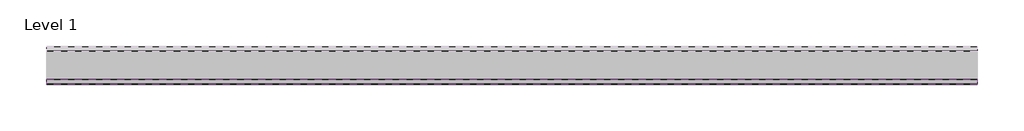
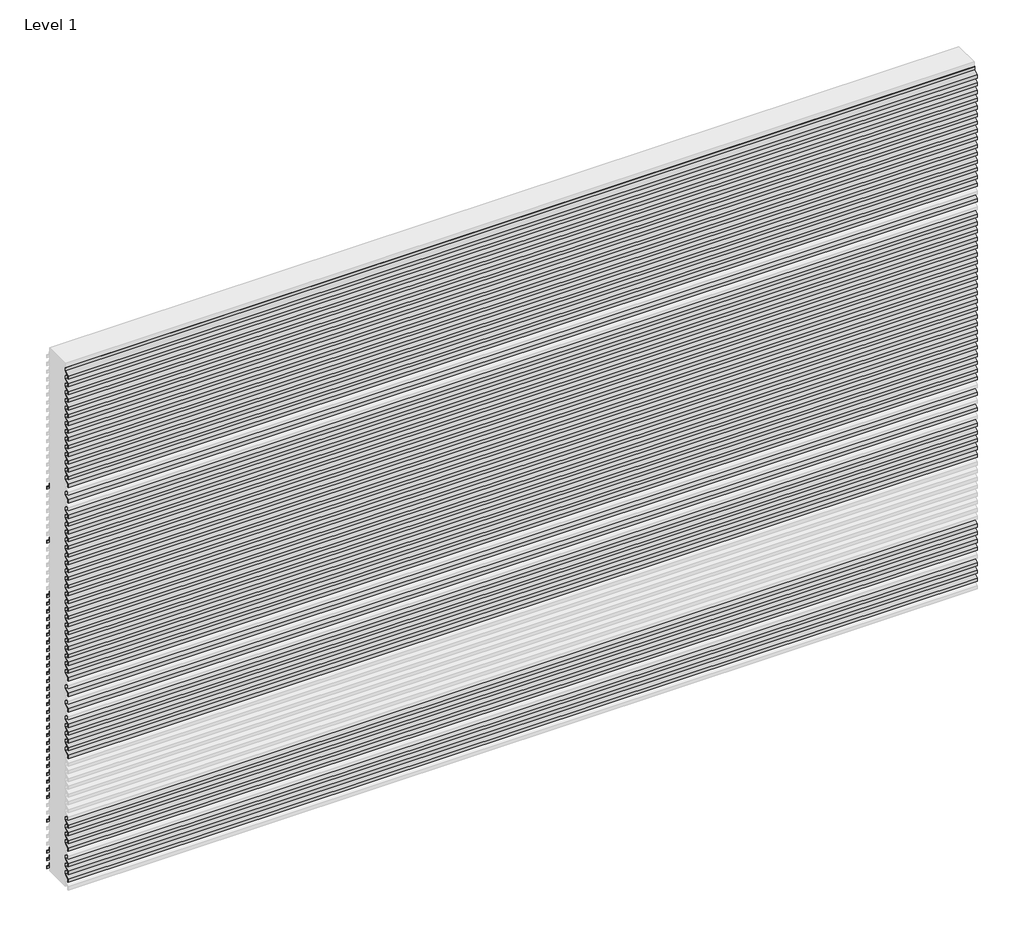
# One storey, part 63 of 69: 85 proxies.
"""IFC4 building model written with IfcOpenShell, lengths in millimetres."""

from ifc_helpers import new_model, si_unit, frame, origin, place, context, project, spatial, polyline, outline, extrude, element, save

model = new_model("IFC4")

# Units and contexts
model_context = context("Model", 3, world=origin())
ifc_project = project(units=[si_unit("LENGTHUNIT", "METRE", prefix="MILLI")], contexts=[model_context])

# Site, building, storey
site = spatial("IfcSite", under=ifc_project)
building = spatial("IfcBuilding", under=site)
storey = spatial("IfcBuildingStorey", under=building, Name="Level 1", Elevation=0.0)

# Proxies
placement = place(None, origin())
element("IfcBuildingElementProxy", 1, Name="Wall Sweeps", at=placement, inside=storey, context=model_context, shape_type="SweptSolid", body=[
    extrude(outline(polyline([(36045.8955424, 309.3), (36045.8955424, 295.8), (36044.6455424, 296.5216933), (36044.6455424, 308.5782281), (36025.4955424, 319.6345698), (36025.4955424, 333.3), (36026.7455424, 333.3), (36026.7455424, 320.3562577), (36045.8955424, 309.3)])), frame((224550.5749426, 0.0, 0.0), z_axis=(1.0, 0.0, 0.0), x_axis=(0.0, 1.0, 0.0)), (0.0, 0.0, 1.0), 3700.0),
])
element("IfcBuildingElementProxy", 2, Name="Wall Sweeps", at=placement, inside=storey, context=model_context, shape_type="SweptSolid", body=[
    extrude(outline(polyline([(36045.8955424, 1075.9), (36045.8955424, 1062.4), (36044.6455424, 1063.1216933), (36044.6455424, 1075.1782281), (36025.4955424, 1086.2345698), (36025.4955424, 1099.9), (36026.7455424, 1099.9), (36026.7455424, 1086.9562577), (36045.8955424, 1075.9)])), frame((224550.5749426, 0.0, 0.0), z_axis=(1.0, 0.0, 0.0), x_axis=(0.0, 1.0, 0.0)), (0.0, 0.0, 1.0), 3700.0),
])
element("IfcBuildingElementProxy", 3, Name="Wall Sweeps", at=placement, inside=storey, context=model_context, shape_type="SweptSolid", body=[
    extrude(outline(polyline([(36045.8955424, 1409.2), (36045.8955424, 1395.7), (36044.6455424, 1396.4216933), (36044.6455424, 1408.4782281), (36025.4955424, 1419.5345698), (36025.4955424, 1433.2), (36026.7455424, 1433.2), (36026.7455424, 1420.2562577), (36045.8955424, 1409.2)])), frame((224550.5749426, 0.0, 0.0), z_axis=(1.0, 0.0, 0.0), x_axis=(0.0, 1.0, 0.0)), (0.0, 0.0, 1.0), 3700.0),
])
element("IfcBuildingElementProxy", 4, Name="Wall Sweeps", at=placement, inside=storey, context=model_context, shape_type="SweptSolid", body=[
    extrude(outline(polyline([(36045.8955424, 1641.0), (36045.8955424, 1627.5), (36044.6455424, 1628.2216933), (36044.6455424, 1640.2782281), (36025.4955424, 1651.3345698), (36025.4955424, 1665.0), (36026.7455424, 1665.0), (36026.7455424, 1652.0562577), (36045.8955424, 1641.0)])), frame((224550.5749426, 0.0, 0.0), z_axis=(1.0, 0.0, 0.0), x_axis=(0.0, 1.0, 0.0)), (0.0, 0.0, 1.0), 3700.0),
])
element("IfcBuildingElementProxy", 5, Name="Wall Sweeps", at=placement, inside=storey, context=model_context, shape_type="SweptSolid", body=[
    extrude(outline(polyline([(36045.8955424, 209.3), (36045.8955424, 195.8), (36044.6455424, 196.5216933), (36044.6455424, 208.5782281), (36025.4955424, 219.6345698), (36025.4955424, 233.3), (36026.7455424, 233.3), (36026.7455424, 220.3562577), (36045.8955424, 209.3)])), frame((224550.5749426, 0.0, 0.0), z_axis=(1.0, 0.0, 0.0), x_axis=(0.0, 1.0, 0.0)), (0.0, 0.0, 1.0), 3700.0),
])
element("IfcBuildingElementProxy", 6, Name="Wall Sweeps", at=placement, inside=storey, context=model_context, shape_type="SweptSolid", body=[
    extrude(outline(polyline([(36045.8955424, 9.3), (36045.8955424, -4.2), (36044.6455424, -3.4783067), (36044.6455424, 8.5782281), (36025.4955424, 19.6345698), (36025.4955424, 33.3), (36026.7455424, 33.3), (36026.7455424, 20.3562577), (36045.8955424, 9.3)])), frame((224550.5749426, 0.0, 0.0), z_axis=(1.0, 0.0, 0.0), x_axis=(0.0, 1.0, 0.0)), (0.0, 0.0, 1.0), 3700.0),
])
element("IfcBuildingElementProxy", 7, Name="Wall Sweeps", at=placement, inside=storey, context=model_context, shape_type="SweptSolid", body=[
    extrude(outline(polyline([(36045.8955424, 342.6), (36045.8955424, 329.1), (36044.6455424, 329.8216933), (36044.6455424, 341.8782281), (36025.4955424, 352.9345698), (36025.4955424, 366.6), (36026.7455424, 366.6), (36026.7455424, 353.6562577), (36045.8955424, 342.6)])), frame((224550.5749426, 0.0, 0.0), z_axis=(1.0, 0.0, 0.0), x_axis=(0.0, 1.0, 0.0)), (0.0, 0.0, 1.0), 3700.0),
])
element("IfcBuildingElementProxy", 8, Name="Wall Sweeps", at=placement, inside=storey, context=model_context, shape_type="SweptSolid", body=[
    extrude(outline(polyline([(36045.8955424, 376.0), (36045.8955424, 362.5), (36044.6455424, 363.2216933), (36044.6455424, 375.2782281), (36025.4955424, 386.3345698), (36025.4955424, 400.0), (36026.7455424, 400.0), (36026.7455424, 387.0562577), (36045.8955424, 376.0)])), frame((224550.5749426, 0.0, 0.0), z_axis=(1.0, 0.0, 0.0), x_axis=(0.0, 1.0, 0.0)), (0.0, 0.0, 1.0), 3700.0),
])
element("IfcBuildingElementProxy", 9, Name="Wall Sweeps", at=placement, inside=storey, context=model_context, shape_type="SweptSolid", body=[
    extrude(outline(polyline([(36045.8955424, 409.3), (36045.8955424, 395.8), (36044.6455424, 396.5216933), (36044.6455424, 408.5782281), (36025.4955424, 419.6345698), (36025.4955424, 433.3), (36026.7455424, 433.3), (36026.7455424, 420.3562577), (36045.8955424, 409.3)])), frame((224550.5749426, 0.0, 0.0), z_axis=(1.0, 0.0, 0.0), x_axis=(0.0, 1.0, 0.0)), (0.0, 0.0, 1.0), 3700.0),
])
element("IfcBuildingElementProxy", 10, Name="Wall Sweeps", at=placement, inside=storey, context=model_context, shape_type="SweptSolid", body=[
    extrude(outline(polyline([(36045.8955424, 442.6), (36045.8955424, 429.1), (36044.6455424, 429.8216933), (36044.6455424, 441.8782281), (36025.4955424, 452.9345698), (36025.4955424, 466.6), (36026.7455424, 466.6), (36026.7455424, 453.6562577), (36045.8955424, 442.6)])), frame((224550.5749426, 0.0, 0.0), z_axis=(1.0, 0.0, 0.0), x_axis=(0.0, 1.0, 0.0)), (0.0, 0.0, 1.0), 3700.0),
])
element("IfcBuildingElementProxy", 11, Name="Wall Sweeps", at=placement, inside=storey, context=model_context, shape_type="SweptSolid", body=[
    extrude(outline(polyline([(36045.8955424, 476.0), (36045.8955424, 462.5), (36044.6455424, 463.2216933), (36044.6455424, 475.2782281), (36025.4955424, 486.3345698), (36025.4955424, 500.0), (36026.7455424, 500.0), (36026.7455424, 487.0562577), (36045.8955424, 476.0)])), frame((224550.5749426, 0.0, 0.0), z_axis=(1.0, 0.0, 0.0), x_axis=(0.0, 1.0, 0.0)), (0.0, 0.0, 1.0), 3700.0),
])
element("IfcBuildingElementProxy", 12, Name="Wall Sweeps", at=placement, inside=storey, context=model_context, shape_type="SweptSolid", body=[
    extrude(outline(polyline([(36045.8955424, 509.3), (36045.8955424, 495.8), (36044.6455424, 496.5216933), (36044.6455424, 508.5782281), (36025.4955424, 519.6345698), (36025.4955424, 533.3), (36026.7455424, 533.3), (36026.7455424, 520.3562577), (36045.8955424, 509.3)])), frame((224550.5749426, 0.0, 0.0), z_axis=(1.0, 0.0, 0.0), x_axis=(0.0, 1.0, 0.0)), (0.0, 0.0, 1.0), 3700.0),
])
element("IfcBuildingElementProxy", 13, Name="Wall Sweeps", at=placement, inside=storey, context=model_context, shape_type="SweptSolid", body=[
    extrude(outline(polyline([(36045.8955424, 542.6), (36045.8955424, 529.1), (36044.6455424, 529.8216933), (36044.6455424, 541.8782281), (36025.4955424, 552.9345698), (36025.4955424, 566.6), (36026.7455424, 566.6), (36026.7455424, 553.6562577), (36045.8955424, 542.6)])), frame((224550.5749426, 0.0, 0.0), z_axis=(1.0, 0.0, 0.0), x_axis=(0.0, 1.0, 0.0)), (0.0, 0.0, 1.0), 3700.0),
])
element("IfcBuildingElementProxy", 14, Name="Wall Sweeps", at=placement, inside=storey, context=model_context, shape_type="SweptSolid", body=[
    extrude(outline(polyline([(35894.0955424, 575.4), (35913.2455424, 586.4562577), (35913.2455424, 599.4), (35914.4955424, 599.4), (35914.4955424, 585.7345698), (35895.3455424, 574.6782281), (35895.3455424, 562.6216933), (35894.0955424, 561.9), (35894.0955424, 575.4)])), frame((224550.5749426, 0.0, 0.0), z_axis=(1.0, 0.0, 0.0), x_axis=(0.0, 1.0, 0.0)), (0.0, 0.0, 1.0), 3700.0),
])
element("IfcBuildingElementProxy", 15, Name="Wall Sweeps", at=placement, inside=storey, context=model_context, shape_type="SweptSolid", body=[
    extrude(outline(polyline([(36045.8955424, 575.9), (36045.8955424, 562.4), (36044.6455424, 563.1216933), (36044.6455424, 575.1782281), (36025.4955424, 586.2345698), (36025.4955424, 599.9), (36026.7455424, 599.9), (36026.7455424, 586.9562577), (36045.8955424, 575.9)])), frame((224550.5749426, 0.0, 0.0), z_axis=(1.0, 0.0, 0.0), x_axis=(0.0, 1.0, 0.0)), (0.0, 0.0, 1.0), 3700.0),
])
element("IfcBuildingElementProxy", 16, Name="Wall Sweeps", at=placement, inside=storey, context=model_context, shape_type="SweptSolid", body=[
    extrude(outline(polyline([(35894.0955424, 608.7), (35913.2455424, 619.7562577), (35913.2455424, 632.7), (35914.4955424, 632.7), (35914.4955424, 619.0345698), (35895.3455424, 607.9782281), (35895.3455424, 595.9216933), (35894.0955424, 595.2), (35894.0955424, 608.7)])), frame((224550.5749426, 0.0, 0.0), z_axis=(1.0, 0.0, 0.0), x_axis=(0.0, 1.0, 0.0)), (0.0, 0.0, 1.0), 3700.0),
])
element("IfcBuildingElementProxy", 17, Name="Wall Sweeps", at=placement, inside=storey, context=model_context, shape_type="SweptSolid", body=[
    extrude(outline(polyline([(36045.8955424, 609.3), (36045.8955424, 595.8), (36044.6455424, 596.5216933), (36044.6455424, 608.5782281), (36025.4955424, 619.6345698), (36025.4955424, 633.3), (36026.7455424, 633.3), (36026.7455424, 620.3562577), (36045.8955424, 609.3)])), frame((224550.5749426, 0.0, 0.0), z_axis=(1.0, 0.0, 0.0), x_axis=(0.0, 1.0, 0.0)), (0.0, 0.0, 1.0), 3700.0),
])
element("IfcBuildingElementProxy", 18, Name="Wall Sweeps", at=placement, inside=storey, context=model_context, shape_type="SweptSolid", body=[
    extrude(outline(polyline([(35894.0955424, 642.0), (35913.2455424, 653.0562577), (35913.2455424, 666.0), (35914.4955424, 666.0), (35914.4955424, 652.3345698), (35895.3455424, 641.2782281), (35895.3455424, 629.2216933), (35894.0955424, 628.5), (35894.0955424, 642.0)])), frame((224550.5749426, 0.0, 0.0), z_axis=(1.0, 0.0, 0.0), x_axis=(0.0, 1.0, 0.0)), (0.0, 0.0, 1.0), 3700.0),
])
element("IfcBuildingElementProxy", 19, Name="Wall Sweeps", at=placement, inside=storey, context=model_context, shape_type="SweptSolid", body=[
    extrude(outline(polyline([(35894.0955424, 42.6), (35913.2455424, 53.6562577), (35913.2455424, 66.6), (35914.4955424, 66.6), (35914.4955424, 52.9345698), (35895.3455424, 41.8782281), (35895.3455424, 29.8216933), (35894.0955424, 29.1), (35894.0955424, 42.6)])), frame((224550.5749426, 0.0, 0.0), z_axis=(1.0, 0.0, 0.0), x_axis=(0.0, 1.0, 0.0)), (0.0, 0.0, 1.0), 3700.0),
])
element("IfcBuildingElementProxy", 20, Name="Wall Sweeps", at=placement, inside=storey, context=model_context, shape_type="SweptSolid", body=[
    extrude(outline(polyline([(36045.8955424, 642.6), (36045.8955424, 629.1), (36044.6455424, 629.8216933), (36044.6455424, 641.8782281), (36025.4955424, 652.9345698), (36025.4955424, 666.6), (36026.7455424, 666.6), (36026.7455424, 653.6562577), (36045.8955424, 642.6)])), frame((224550.5749426, 0.0, 0.0), z_axis=(1.0, 0.0, 0.0), x_axis=(0.0, 1.0, 0.0)), (0.0, 0.0, 1.0), 3700.0),
])
element("IfcBuildingElementProxy", 21, Name="Wall Sweeps", at=placement, inside=storey, context=model_context, shape_type="SweptSolid", body=[
    extrude(outline(polyline([(36045.8955424, 42.7), (36045.8955424, 29.2), (36044.6455424, 29.9216933), (36044.6455424, 41.9782281), (36025.4955424, 53.0345698), (36025.4955424, 66.7), (36026.7455424, 66.7), (36026.7455424, 53.7562577), (36045.8955424, 42.7)])), frame((224550.5749426, 0.0, 0.0), z_axis=(1.0, 0.0, 0.0), x_axis=(0.0, 1.0, 0.0)), (0.0, 0.0, 1.0), 3700.0),
])
element("IfcBuildingElementProxy", 22, Name="Wall Sweeps", at=placement, inside=storey, context=model_context, shape_type="SweptSolid", body=[
    extrude(outline(polyline([(35894.0955424, 675.3), (35913.2455424, 686.3562577), (35913.2455424, 699.3), (35914.4955424, 699.3), (35914.4955424, 685.6345698), (35895.3455424, 674.5782281), (35895.3455424, 662.5216933), (35894.0955424, 661.8), (35894.0955424, 675.3)])), frame((224550.5749426, 0.0, 0.0), z_axis=(1.0, 0.0, 0.0), x_axis=(0.0, 1.0, 0.0)), (0.0, 0.0, 1.0), 3700.0),
])
element("IfcBuildingElementProxy", 23, Name="Wall Sweeps", at=placement, inside=storey, context=model_context, shape_type="SweptSolid", body=[
    extrude(outline(polyline([(36045.8955424, 675.9), (36045.8955424, 662.4), (36044.6455424, 663.1216933), (36044.6455424, 675.1782281), (36025.4955424, 686.2345698), (36025.4955424, 699.9), (36026.7455424, 699.9), (36026.7455424, 686.9562577), (36045.8955424, 675.9)])), frame((224550.5749426, 0.0, 0.0), z_axis=(1.0, 0.0, 0.0), x_axis=(0.0, 1.0, 0.0)), (0.0, 0.0, 1.0), 3700.0),
])
element("IfcBuildingElementProxy", 24, Name="Wall Sweeps", at=placement, inside=storey, context=model_context, shape_type="SweptSolid", body=[
    extrude(outline(polyline([(35894.0955424, 708.6), (35913.2455424, 719.6562577), (35913.2455424, 732.6), (35914.4955424, 732.6), (35914.4955424, 718.9345698), (35895.3455424, 707.8782281), (35895.3455424, 695.8216933), (35894.0955424, 695.1), (35894.0955424, 708.6)])), frame((224550.5749426, 0.0, 0.0), z_axis=(1.0, 0.0, 0.0), x_axis=(0.0, 1.0, 0.0)), (0.0, 0.0, 1.0), 3700.0),
])
element("IfcBuildingElementProxy", 25, Name="Wall Sweeps", at=placement, inside=storey, context=model_context, shape_type="SweptSolid", body=[
    extrude(outline(polyline([(36045.8955424, 709.3), (36045.8955424, 695.8), (36044.6455424, 696.5216933), (36044.6455424, 708.5782281), (36025.4955424, 719.6345698), (36025.4955424, 733.3), (36026.7455424, 733.3), (36026.7455424, 720.3562577), (36045.8955424, 709.3)])), frame((224550.5749426, 0.0, 0.0), z_axis=(1.0, 0.0, 0.0), x_axis=(0.0, 1.0, 0.0)), (0.0, 0.0, 1.0), 3700.0),
])
element("IfcBuildingElementProxy", 26, Name="Wall Sweeps", at=placement, inside=storey, context=model_context, shape_type="SweptSolid", body=[
    extrude(outline(polyline([(36045.8955424, 742.6), (36045.8955424, 729.1), (36044.6455424, 729.8216933), (36044.6455424, 741.8782281), (36025.4955424, 752.9345698), (36025.4955424, 766.6), (36026.7455424, 766.6), (36026.7455424, 753.6562577), (36045.8955424, 742.6)])), frame((224550.5749426, 0.0, 0.0), z_axis=(1.0, 0.0, 0.0), x_axis=(0.0, 1.0, 0.0)), (0.0, 0.0, 1.0), 3700.0),
])
element("IfcBuildingElementProxy", 27, Name="Wall Sweeps", at=placement, inside=storey, context=model_context, shape_type="SweptSolid", body=[
    extrude(outline(polyline([(35894.0955424, 775.2), (35913.2455424, 786.2562577), (35913.2455424, 799.2), (35914.4955424, 799.2), (35914.4955424, 785.5345698), (35895.3455424, 774.4782281), (35895.3455424, 762.4216933), (35894.0955424, 761.7), (35894.0955424, 775.2)])), frame((224550.5749426, 0.0, 0.0), z_axis=(1.0, 0.0, 0.0), x_axis=(0.0, 1.0, 0.0)), (0.0, 0.0, 1.0), 3700.0),
])
element("IfcBuildingElementProxy", 28, Name="Wall Sweeps", at=placement, inside=storey, context=model_context, shape_type="SweptSolid", body=[
    extrude(outline(polyline([(36045.8955424, 775.9), (36045.8955424, 762.4), (36044.6455424, 763.1216933), (36044.6455424, 775.1782281), (36025.4955424, 786.2345698), (36025.4955424, 799.9), (36026.7455424, 799.9), (36026.7455424, 786.9562577), (36045.8955424, 775.9)])), frame((224550.5749426, 0.0, 0.0), z_axis=(1.0, 0.0, 0.0), x_axis=(0.0, 1.0, 0.0)), (0.0, 0.0, 1.0), 3700.0),
])
element("IfcBuildingElementProxy", 29, Name="Wall Sweeps", at=placement, inside=storey, context=model_context, shape_type="SweptSolid", body=[
    extrude(outline(polyline([(36045.8955424, 809.3), (36045.8955424, 795.8), (36044.6455424, 796.5216933), (36044.6455424, 808.5782281), (36025.4955424, 819.6345698), (36025.4955424, 833.3), (36026.7455424, 833.3), (36026.7455424, 820.3562577), (36045.8955424, 809.3)])), frame((224550.5749426, 0.0, 0.0), z_axis=(1.0, 0.0, 0.0), x_axis=(0.0, 1.0, 0.0)), (0.0, 0.0, 1.0), 3700.0),
])
element("IfcBuildingElementProxy", 30, Name="Wall Sweeps", at=placement, inside=storey, context=model_context, shape_type="SweptSolid", body=[
    extrude(outline(polyline([(35894.0955424, 841.8), (35913.2455424, 852.8562577), (35913.2455424, 865.8), (35914.4955424, 865.8), (35914.4955424, 852.1345698), (35895.3455424, 841.0782281), (35895.3455424, 829.0216933), (35894.0955424, 828.3), (35894.0955424, 841.8)])), frame((224550.5749426, 0.0, 0.0), z_axis=(1.0, 0.0, 0.0), x_axis=(0.0, 1.0, 0.0)), (0.0, 0.0, 1.0), 3700.0),
])
element("IfcBuildingElementProxy", 31, Name="Wall Sweeps", at=placement, inside=storey, context=model_context, shape_type="SweptSolid", body=[
    extrude(outline(polyline([(36045.8955424, 842.6), (36045.8955424, 829.1), (36044.6455424, 829.8216933), (36044.6455424, 841.8782281), (36025.4955424, 852.9345698), (36025.4955424, 866.6), (36026.7455424, 866.6), (36026.7455424, 853.6562577), (36045.8955424, 842.6)])), frame((224550.5749426, 0.0, 0.0), z_axis=(1.0, 0.0, 0.0), x_axis=(0.0, 1.0, 0.0)), (0.0, 0.0, 1.0), 3700.0),
])
element("IfcBuildingElementProxy", 32, Name="Wall Sweeps", at=placement, inside=storey, context=model_context, shape_type="SweptSolid", body=[
    extrude(outline(polyline([(36045.8955424, 875.9), (36045.8955424, 862.4), (36044.6455424, 863.1216933), (36044.6455424, 875.1782281), (36025.4955424, 886.2345698), (36025.4955424, 899.9), (36026.7455424, 899.9), (36026.7455424, 886.9562577), (36045.8955424, 875.9)])), frame((224550.5749426, 0.0, 0.0), z_axis=(1.0, 0.0, 0.0), x_axis=(0.0, 1.0, 0.0)), (0.0, 0.0, 1.0), 3700.0),
])
element("IfcBuildingElementProxy", 33, Name="Wall Sweeps", at=placement, inside=storey, context=model_context, shape_type="SweptSolid", body=[
    extrude(outline(polyline([(35894.0955424, 908.4), (35913.2455424, 919.4562577), (35913.2455424, 932.4), (35914.4955424, 932.4), (35914.4955424, 918.7345698), (35895.3455424, 907.6782281), (35895.3455424, 895.6216933), (35894.0955424, 894.9), (35894.0955424, 908.4)])), frame((224550.5749426, 0.0, 0.0), z_axis=(1.0, 0.0, 0.0), x_axis=(0.0, 1.0, 0.0)), (0.0, 0.0, 1.0), 3700.0),
])
element("IfcBuildingElementProxy", 34, Name="Wall Sweeps", at=placement, inside=storey, context=model_context, shape_type="SweptSolid", body=[
    extrude(outline(polyline([(36045.8955424, 909.2), (36045.8955424, 895.7), (36044.6455424, 896.4216933), (36044.6455424, 908.4782281), (36025.4955424, 919.5345698), (36025.4955424, 933.2), (36026.7455424, 933.2), (36026.7455424, 920.2562577), (36045.8955424, 909.2)])), frame((224550.5749426, 0.0, 0.0), z_axis=(1.0, 0.0, 0.0), x_axis=(0.0, 1.0, 0.0)), (0.0, 0.0, 1.0), 3700.0),
])
element("IfcBuildingElementProxy", 35, Name="Wall Sweeps", at=placement, inside=storey, context=model_context, shape_type="SweptSolid", body=[
    extrude(outline(polyline([(35894.0955424, 941.7), (35913.2455424, 952.7562577), (35913.2455424, 965.7), (35914.4955424, 965.7), (35914.4955424, 952.0345698), (35895.3455424, 940.9782281), (35895.3455424, 928.9216933), (35894.0955424, 928.2), (35894.0955424, 941.7)])), frame((224550.5749426, 0.0, 0.0), z_axis=(1.0, 0.0, 0.0), x_axis=(0.0, 1.0, 0.0)), (0.0, 0.0, 1.0), 3700.0),
])
element("IfcBuildingElementProxy", 36, Name="Wall Sweeps", at=placement, inside=storey, context=model_context, shape_type="SweptSolid", body=[
    extrude(outline(polyline([(36045.8955424, 942.6), (36045.8955424, 929.1), (36044.6455424, 929.8216933), (36044.6455424, 941.8782281), (36025.4955424, 952.9345698), (36025.4955424, 966.6), (36026.7455424, 966.6), (36026.7455424, 953.6562577), (36045.8955424, 942.6)])), frame((224550.5749426, 0.0, 0.0), z_axis=(1.0, 0.0, 0.0), x_axis=(0.0, 1.0, 0.0)), (0.0, 0.0, 1.0), 3700.0),
])
element("IfcBuildingElementProxy", 37, Name="Wall Sweeps", at=placement, inside=storey, context=model_context, shape_type="SweptSolid", body=[
    extrude(outline(polyline([(35894.0955424, 975.0), (35913.2455424, 986.0562577), (35913.2455424, 999.0), (35914.4955424, 999.0), (35914.4955424, 985.3345698), (35895.3455424, 974.2782281), (35895.3455424, 962.2216933), (35894.0955424, 961.5), (35894.0955424, 975.0)])), frame((224550.5749426, 0.0, 0.0), z_axis=(1.0, 0.0, 0.0), x_axis=(0.0, 1.0, 0.0)), (0.0, 0.0, 1.0), 3700.0),
])
element("IfcBuildingElementProxy", 38, Name="Wall Sweeps", at=placement, inside=storey, context=model_context, shape_type="SweptSolid", body=[
    extrude(outline(polyline([(36045.8955424, 975.9), (36045.8955424, 962.4), (36044.6455424, 963.1216933), (36044.6455424, 975.1782281), (36025.4955424, 986.2345698), (36025.4955424, 999.9), (36026.7455424, 999.9), (36026.7455424, 986.9562577), (36045.8955424, 975.9)])), frame((224550.5749426, 0.0, 0.0), z_axis=(1.0, 0.0, 0.0), x_axis=(0.0, 1.0, 0.0)), (0.0, 0.0, 1.0), 3700.0),
])
element("IfcBuildingElementProxy", 39, Name="Wall Sweeps", at=placement, inside=storey, context=model_context, shape_type="SweptSolid", body=[
    extrude(outline(polyline([(35894.0955424, 76.0), (35913.2455424, 87.0562577), (35913.2455424, 100.0), (35914.4955424, 100.0), (35914.4955424, 86.3345698), (35895.3455424, 75.2782281), (35895.3455424, 63.2216933), (35894.0955424, 62.5), (35894.0955424, 76.0)])), frame((224550.5749426, 0.0, 0.0), z_axis=(1.0, 0.0, 0.0), x_axis=(0.0, 1.0, 0.0)), (0.0, 0.0, 1.0), 3700.0),
])
element("IfcBuildingElementProxy", 40, Name="Wall Sweeps", at=placement, inside=storey, context=model_context, shape_type="SweptSolid", body=[
    extrude(outline(polyline([(36045.8955424, 76.0), (36045.8955424, 62.5), (36044.6455424, 63.2216933), (36044.6455424, 75.2782281), (36025.4955424, 86.3345698), (36025.4955424, 100.0), (36026.7455424, 100.0), (36026.7455424, 87.0562577), (36045.8955424, 76.0)])), frame((224550.5749426, 0.0, 0.0), z_axis=(1.0, 0.0, 0.0), x_axis=(0.0, 1.0, 0.0)), (0.0, 0.0, 1.0), 3700.0),
])
element("IfcBuildingElementProxy", 41, Name="Wall Sweeps", at=placement, inside=storey, context=model_context, shape_type="SweptSolid", body=[
    extrude(outline(polyline([(35894.0955424, 1008.3), (35913.2455424, 1019.3562577), (35913.2455424, 1032.3), (35914.4955424, 1032.3), (35914.4955424, 1018.6345698), (35895.3455424, 1007.5782281), (35895.3455424, 995.5216933), (35894.0955424, 994.8), (35894.0955424, 1008.3)])), frame((224550.5749426, 0.0, 0.0), z_axis=(1.0, 0.0, 0.0), x_axis=(0.0, 1.0, 0.0)), (0.0, 0.0, 1.0), 3700.0),
])
element("IfcBuildingElementProxy", 42, Name="Wall Sweeps", at=placement, inside=storey, context=model_context, shape_type="SweptSolid", body=[
    extrude(outline(polyline([(36045.8955424, 1009.2), (36045.8955424, 995.7), (36044.6455424, 996.4216933), (36044.6455424, 1008.4782281), (36025.4955424, 1019.5345698), (36025.4955424, 1033.2), (36026.7455424, 1033.2), (36026.7455424, 1020.2562577), (36045.8955424, 1009.2)])), frame((224550.5749426, 0.0, 0.0), z_axis=(1.0, 0.0, 0.0), x_axis=(0.0, 1.0, 0.0)), (0.0, 0.0, 1.0), 3700.0),
])
element("IfcBuildingElementProxy", 43, Name="Wall Sweeps", at=placement, inside=storey, context=model_context, shape_type="SweptSolid", body=[
    extrude(outline(polyline([(35894.0955424, 1041.6), (35913.2455424, 1052.6562577), (35913.2455424, 1065.6), (35914.4955424, 1065.6), (35914.4955424, 1051.9345698), (35895.3455424, 1040.8782281), (35895.3455424, 1028.8216933), (35894.0955424, 1028.1), (35894.0955424, 1041.6)])), frame((224550.5749426, 0.0, 0.0), z_axis=(1.0, 0.0, 0.0), x_axis=(0.0, 1.0, 0.0)), (0.0, 0.0, 1.0), 3700.0),
])
element("IfcBuildingElementProxy", 44, Name="Wall Sweeps", at=placement, inside=storey, context=model_context, shape_type="SweptSolid", body=[
    extrude(outline(polyline([(36045.8955424, 1042.6), (36045.8955424, 1029.1), (36044.6455424, 1029.8216933), (36044.6455424, 1041.8782281), (36025.4955424, 1052.9345698), (36025.4955424, 1066.6), (36026.7455424, 1066.6), (36026.7455424, 1053.6562577), (36045.8955424, 1042.6)])), frame((224550.5749426, 0.0, 0.0), z_axis=(1.0, 0.0, 0.0), x_axis=(0.0, 1.0, 0.0)), (0.0, 0.0, 1.0), 3700.0),
])
element("IfcBuildingElementProxy", 45, Name="Wall Sweeps", at=placement, inside=storey, context=model_context, shape_type="SweptSolid", body=[
    extrude(outline(polyline([(35894.0955424, 1074.9), (35913.2455424, 1085.9562577), (35913.2455424, 1098.9), (35914.4955424, 1098.9), (35914.4955424, 1085.2345698), (35895.3455424, 1074.1782281), (35895.3455424, 1062.1216933), (35894.0955424, 1061.4), (35894.0955424, 1074.9)])), frame((224550.5749426, 0.0, 0.0), z_axis=(1.0, 0.0, 0.0), x_axis=(0.0, 1.0, 0.0)), (0.0, 0.0, 1.0), 3700.0),
])
element("IfcBuildingElementProxy", 46, Name="Wall Sweeps", at=placement, inside=storey, context=model_context, shape_type="SweptSolid", body=[
    extrude(outline(polyline([(35894.0955424, 1108.2), (35913.2455424, 1119.2562577), (35913.2455424, 1132.2), (35914.4955424, 1132.2), (35914.4955424, 1118.5345698), (35895.3455424, 1107.4782281), (35895.3455424, 1095.4216933), (35894.0955424, 1094.7), (35894.0955424, 1108.2)])), frame((224550.5749426, 0.0, 0.0), z_axis=(1.0, 0.0, 0.0), x_axis=(0.0, 1.0, 0.0)), (0.0, 0.0, 1.0), 3700.0),
])
element("IfcBuildingElementProxy", 47, Name="Wall Sweeps", at=placement, inside=storey, context=model_context, shape_type="SweptSolid", body=[
    extrude(outline(polyline([(36045.8955424, 1109.2), (36045.8955424, 1095.7), (36044.6455424, 1096.4216933), (36044.6455424, 1108.4782281), (36025.4955424, 1119.5345698), (36025.4955424, 1133.2), (36026.7455424, 1133.2), (36026.7455424, 1120.2562577), (36045.8955424, 1109.2)])), frame((224550.5749426, 0.0, 0.0), z_axis=(1.0, 0.0, 0.0), x_axis=(0.0, 1.0, 0.0)), (0.0, 0.0, 1.0), 3700.0),
])
element("IfcBuildingElementProxy", 48, Name="Wall Sweeps", at=placement, inside=storey, context=model_context, shape_type="SweptSolid", body=[
    extrude(outline(polyline([(35894.0955424, 1141.5), (35913.2455424, 1152.5562577), (35913.2455424, 1165.5), (35914.4955424, 1165.5), (35914.4955424, 1151.8345698), (35895.3455424, 1140.7782281), (35895.3455424, 1128.7216933), (35894.0955424, 1128.0), (35894.0955424, 1141.5)])), frame((224550.5749426, 0.0, 0.0), z_axis=(1.0, 0.0, 0.0), x_axis=(0.0, 1.0, 0.0)), (0.0, 0.0, 1.0), 3700.0),
])
element("IfcBuildingElementProxy", 49, Name="Wall Sweeps", at=placement, inside=storey, context=model_context, shape_type="SweptSolid", body=[
    extrude(outline(polyline([(36045.8955424, 1142.6), (36045.8955424, 1129.1), (36044.6455424, 1129.8216933), (36044.6455424, 1141.8782281), (36025.4955424, 1152.9345698), (36025.4955424, 1166.6), (36026.7455424, 1166.6), (36026.7455424, 1153.6562577), (36045.8955424, 1142.6)])), frame((224550.5749426, 0.0, 0.0), z_axis=(1.0, 0.0, 0.0), x_axis=(0.0, 1.0, 0.0)), (0.0, 0.0, 1.0), 3700.0),
])
element("IfcBuildingElementProxy", 50, Name="Wall Sweeps", at=placement, inside=storey, context=model_context, shape_type="SweptSolid", body=[
    extrude(outline(polyline([(35894.0955424, 1174.8), (35913.2455424, 1185.8562577), (35913.2455424, 1198.8), (35914.4955424, 1198.8), (35914.4955424, 1185.1345698), (35895.3455424, 1174.0782281), (35895.3455424, 1162.0216933), (35894.0955424, 1161.3), (35894.0955424, 1174.8)])), frame((224550.5749426, 0.0, 0.0), z_axis=(1.0, 0.0, 0.0), x_axis=(0.0, 1.0, 0.0)), (0.0, 0.0, 1.0), 3700.0),
])
element("IfcBuildingElementProxy", 51, Name="Wall Sweeps", at=placement, inside=storey, context=model_context, shape_type="SweptSolid", body=[
    extrude(outline(polyline([(36045.8955424, 1175.9), (36045.8955424, 1162.4), (36044.6455424, 1163.1216933), (36044.6455424, 1175.1782281), (36025.4955424, 1186.2345698), (36025.4955424, 1199.9), (36026.7455424, 1199.9), (36026.7455424, 1186.9562577), (36045.8955424, 1175.9)])), frame((224550.5749426, 0.0, 0.0), z_axis=(1.0, 0.0, 0.0), x_axis=(0.0, 1.0, 0.0)), (0.0, 0.0, 1.0), 3700.0),
])
element("IfcBuildingElementProxy", 52, Name="Wall Sweeps", at=placement, inside=storey, context=model_context, shape_type="SweptSolid", body=[
    extrude(outline(polyline([(35894.0955424, 1208.1), (35913.2455424, 1219.1562577), (35913.2455424, 1232.1), (35914.4955424, 1232.1), (35914.4955424, 1218.4345698), (35895.3455424, 1207.3782281), (35895.3455424, 1195.3216933), (35894.0955424, 1194.6), (35894.0955424, 1208.1)])), frame((224550.5749426, 0.0, 0.0), z_axis=(1.0, 0.0, 0.0), x_axis=(0.0, 1.0, 0.0)), (0.0, 0.0, 1.0), 3700.0),
])
element("IfcBuildingElementProxy", 53, Name="Wall Sweeps", at=placement, inside=storey, context=model_context, shape_type="SweptSolid", body=[
    extrude(outline(polyline([(35894.0955424, 1241.4), (35913.2455424, 1252.4562577), (35913.2455424, 1265.4), (35914.4955424, 1265.4), (35914.4955424, 1251.7345698), (35895.3455424, 1240.6782281), (35895.3455424, 1228.6216933), (35894.0955424, 1227.9), (35894.0955424, 1241.4)])), frame((224550.5749426, 0.0, 0.0), z_axis=(1.0, 0.0, 0.0), x_axis=(0.0, 1.0, 0.0)), (0.0, 0.0, 1.0), 3700.0),
])
element("IfcBuildingElementProxy", 54, Name="Wall Sweeps", at=placement, inside=storey, context=model_context, shape_type="SweptSolid", body=[
    extrude(outline(polyline([(35894.0955424, 1274.7), (35913.2455424, 1285.7562577), (35913.2455424, 1298.7), (35914.4955424, 1298.7), (35914.4955424, 1285.0345698), (35895.3455424, 1273.9782281), (35895.3455424, 1261.9216933), (35894.0955424, 1261.2), (35894.0955424, 1274.7)])), frame((224550.5749426, 0.0, 0.0), z_axis=(1.0, 0.0, 0.0), x_axis=(0.0, 1.0, 0.0)), (0.0, 0.0, 1.0), 3700.0),
])
element("IfcBuildingElementProxy", 55, Name="Wall Sweeps", at=placement, inside=storey, context=model_context, shape_type="SweptSolid", body=[
    extrude(outline(polyline([(35894.0955424, 1308.0), (35913.2455424, 1319.0562577), (35913.2455424, 1332.0), (35914.4955424, 1332.0), (35914.4955424, 1318.3345698), (35895.3455424, 1307.2782281), (35895.3455424, 1295.2216933), (35894.0955424, 1294.5), (35894.0955424, 1308.0)])), frame((224550.5749426, 0.0, 0.0), z_axis=(1.0, 0.0, 0.0), x_axis=(0.0, 1.0, 0.0)), (0.0, 0.0, 1.0), 3700.0),
])
element("IfcBuildingElementProxy", 56, Name="Wall Sweeps", at=placement, inside=storey, context=model_context, shape_type="SweptSolid", body=[
    extrude(outline(polyline([(35894.0955424, 109.2), (35913.2455424, 120.2562577), (35913.2455424, 133.2), (35914.4955424, 133.2), (35914.4955424, 119.5345698), (35895.3455424, 108.4782281), (35895.3455424, 96.4216933), (35894.0955424, 95.7), (35894.0955424, 109.2)])), frame((224550.5749426, 0.0, 0.0), z_axis=(1.0, 0.0, 0.0), x_axis=(0.0, 1.0, 0.0)), (0.0, 0.0, 1.0), 3700.0),
])
element("IfcBuildingElementProxy", 57, Name="Wall Sweeps", at=placement, inside=storey, context=model_context, shape_type="SweptSolid", body=[
    extrude(outline(polyline([(35894.0955424, 1341.3), (35913.2455424, 1352.3562577), (35913.2455424, 1365.3), (35914.4955424, 1365.3), (35914.4955424, 1351.6345698), (35895.3455424, 1340.5782281), (35895.3455424, 1328.5216933), (35894.0955424, 1327.8), (35894.0955424, 1341.3)])), frame((224550.5749426, 0.0, 0.0), z_axis=(1.0, 0.0, 0.0), x_axis=(0.0, 1.0, 0.0)), (0.0, 0.0, 1.0), 3700.0),
])
element("IfcBuildingElementProxy", 58, Name="Wall Sweeps", at=placement, inside=storey, context=model_context, shape_type="SweptSolid", body=[
    extrude(outline(polyline([(35894.0955424, 1374.6), (35913.2455424, 1385.6562577), (35913.2455424, 1398.6), (35914.4955424, 1398.6), (35914.4955424, 1384.9345698), (35895.3455424, 1373.8782281), (35895.3455424, 1361.8216933), (35894.0955424, 1361.1), (35894.0955424, 1374.6)])), frame((224550.5749426, 0.0, 0.0), z_axis=(1.0, 0.0, 0.0), x_axis=(0.0, 1.0, 0.0)), (0.0, 0.0, 1.0), 3700.0),
])
element("IfcBuildingElementProxy", 59, Name="Wall Sweeps", at=placement, inside=storey, context=model_context, shape_type="SweptSolid", body=[
    extrude(outline(polyline([(35894.0955424, 1407.9), (35913.2455424, 1418.9562577), (35913.2455424, 1431.9), (35914.4955424, 1431.9), (35914.4955424, 1418.2345698), (35895.3455424, 1407.1782281), (35895.3455424, 1395.1216933), (35894.0955424, 1394.4), (35894.0955424, 1407.9)])), frame((224550.5749426, 0.0, 0.0), z_axis=(1.0, 0.0, 0.0), x_axis=(0.0, 1.0, 0.0)), (0.0, 0.0, 1.0), 3700.0),
])
element("IfcBuildingElementProxy", 60, Name="Wall Sweeps", at=placement, inside=storey, context=model_context, shape_type="SweptSolid", body=[
    extrude(outline(polyline([(35894.0955424, 1441.2), (35913.2455424, 1452.2562577), (35913.2455424, 1465.2), (35914.4955424, 1465.2), (35914.4955424, 1451.5345698), (35895.3455424, 1440.4782281), (35895.3455424, 1428.4216933), (35894.0955424, 1427.7), (35894.0955424, 1441.2)])), frame((224550.5749426, 0.0, 0.0), z_axis=(1.0, 0.0, 0.0), x_axis=(0.0, 1.0, 0.0)), (0.0, 0.0, 1.0), 3700.0),
])
element("IfcBuildingElementProxy", 61, Name="Wall Sweeps", at=placement, inside=storey, context=model_context, shape_type="SweptSolid", body=[
    extrude(outline(polyline([(35894.0955424, 1474.5), (35913.2455424, 1485.5562577), (35913.2455424, 1498.5), (35914.4955424, 1498.5), (35914.4955424, 1484.8345698), (35895.3455424, 1473.7782281), (35895.3455424, 1461.7216933), (35894.0955424, 1461.0), (35894.0955424, 1474.5)])), frame((224550.5749426, 0.0, 0.0), z_axis=(1.0, 0.0, 0.0), x_axis=(0.0, 1.0, 0.0)), (0.0, 0.0, 1.0), 3700.0),
])
element("IfcBuildingElementProxy", 62, Name="Wall Sweeps", at=placement, inside=storey, context=model_context, shape_type="SweptSolid", body=[
    extrude(outline(polyline([(35894.0955424, 1507.8), (35913.2455424, 1518.8562577), (35913.2455424, 1531.8), (35914.4955424, 1531.8), (35914.4955424, 1518.1345698), (35895.3455424, 1507.0782281), (35895.3455424, 1495.0216933), (35894.0955424, 1494.3), (35894.0955424, 1507.8)])), frame((224550.5749426, 0.0, 0.0), z_axis=(1.0, 0.0, 0.0), x_axis=(0.0, 1.0, 0.0)), (0.0, 0.0, 1.0), 3700.0),
])
element("IfcBuildingElementProxy", 63, Name="Wall Sweeps", at=placement, inside=storey, context=model_context, shape_type="SweptSolid", body=[
    extrude(outline(polyline([(35894.0955424, 1541.1), (35913.2455424, 1552.1562577), (35913.2455424, 1565.1), (35914.4955424, 1565.1), (35914.4955424, 1551.4345698), (35895.3455424, 1540.3782281), (35895.3455424, 1528.3216933), (35894.0955424, 1527.6), (35894.0955424, 1541.1)])), frame((224550.5749426, 0.0, 0.0), z_axis=(1.0, 0.0, 0.0), x_axis=(0.0, 1.0, 0.0)), (0.0, 0.0, 1.0), 3700.0),
])
element("IfcBuildingElementProxy", 64, Name="Wall Sweeps", at=placement, inside=storey, context=model_context, shape_type="SweptSolid", body=[
    extrude(outline(polyline([(35894.0955424, 1574.4), (35913.2455424, 1585.4562577), (35913.2455424, 1598.4), (35914.4955424, 1598.4), (35914.4955424, 1584.7345698), (35895.3455424, 1573.6782281), (35895.3455424, 1561.6216933), (35894.0955424, 1560.9), (35894.0955424, 1574.4)])), frame((224550.5749426, 0.0, 0.0), z_axis=(1.0, 0.0, 0.0), x_axis=(0.0, 1.0, 0.0)), (0.0, 0.0, 1.0), 3700.0),
])
element("IfcBuildingElementProxy", 65, Name="Wall Sweeps", at=placement, inside=storey, context=model_context, shape_type="SweptSolid", body=[
    extrude(outline(polyline([(35894.0955424, 1607.7), (35913.2455424, 1618.7562577), (35913.2455424, 1631.7), (35914.4955424, 1631.7), (35914.4955424, 1618.0345698), (35895.3455424, 1606.9782281), (35895.3455424, 1594.9216933), (35894.0955424, 1594.2), (35894.0955424, 1607.7)])), frame((224550.5749426, 0.0, 0.0), z_axis=(1.0, 0.0, 0.0), x_axis=(0.0, 1.0, 0.0)), (0.0, 0.0, 1.0), 3700.0),
])
element("IfcBuildingElementProxy", 66, Name="Wall Sweeps", at=placement, inside=storey, context=model_context, shape_type="SweptSolid", body=[
    extrude(outline(polyline([(35894.0955424, 1674.3), (35913.2455424, 1685.3562577), (35913.2455424, 1698.3), (35914.4955424, 1698.3), (35914.4955424, 1684.6345698), (35895.3455424, 1673.5782281), (35895.3455424, 1661.5216933), (35894.0955424, 1660.8), (35894.0955424, 1674.3)])), frame((224550.5749426, 0.0, 0.0), z_axis=(1.0, 0.0, 0.0), x_axis=(0.0, 1.0, 0.0)), (0.0, 0.0, 1.0), 3700.0),
])
element("IfcBuildingElementProxy", 67, Name="Wall Sweeps", at=placement, inside=storey, context=model_context, shape_type="SweptSolid", body=[
    extrude(outline(polyline([(35894.0955424, 1740.9), (35913.2455424, 1751.9562577), (35913.2455424, 1764.9), (35914.4955424, 1764.9), (35914.4955424, 1751.2345698), (35895.3455424, 1740.1782281), (35895.3455424, 1728.1216933), (35894.0955424, 1727.4), (35894.0955424, 1740.9)])), frame((224550.5749426, 0.0, 0.0), z_axis=(1.0, 0.0, 0.0), x_axis=(0.0, 1.0, 0.0)), (0.0, 0.0, 1.0), 3700.0),
])
element("IfcBuildingElementProxy", 68, Name="Wall Sweeps", at=placement, inside=storey, context=model_context, shape_type="SweptSolid", body=[
    extrude(outline(polyline([(35894.0955424, 1774.2), (35913.2455424, 1785.2562577), (35913.2455424, 1798.2), (35914.4955424, 1798.2), (35914.4955424, 1784.5345698), (35895.3455424, 1773.4782281), (35895.3455424, 1761.4216933), (35894.0955424, 1760.7), (35894.0955424, 1774.2)])), frame((224550.5749426, 0.0, 0.0), z_axis=(1.0, 0.0, 0.0), x_axis=(0.0, 1.0, 0.0)), (0.0, 0.0, 1.0), 3700.0),
])
element("IfcBuildingElementProxy", 69, Name="Wall Sweeps", at=placement, inside=storey, context=model_context, shape_type="SweptSolid", body=[
    extrude(outline(polyline([(35894.0955424, 1807.5), (35913.2455424, 1818.5562577), (35913.2455424, 1831.5), (35914.4955424, 1831.5), (35914.4955424, 1817.8345698), (35895.3455424, 1806.7782281), (35895.3455424, 1794.7216933), (35894.0955424, 1794.0), (35894.0955424, 1807.5)])), frame((224550.5749426, 0.0, 0.0), z_axis=(1.0, 0.0, 0.0), x_axis=(0.0, 1.0, 0.0)), (0.0, 0.0, 1.0), 3700.0),
])
element("IfcBuildingElementProxy", 70, Name="Wall Sweeps", at=placement, inside=storey, context=model_context, shape_type="SweptSolid", body=[
    extrude(outline(polyline([(35894.0955424, 1840.8), (35913.2455424, 1851.8562577), (35913.2455424, 1864.8), (35914.4955424, 1864.8), (35914.4955424, 1851.1345698), (35895.3455424, 1840.0782281), (35895.3455424, 1828.0216933), (35894.0955424, 1827.3), (35894.0955424, 1840.8)])), frame((224550.5749426, 0.0, 0.0), z_axis=(1.0, 0.0, 0.0), x_axis=(0.0, 1.0, 0.0)), (0.0, 0.0, 1.0), 3700.0),
])
element("IfcBuildingElementProxy", 71, Name="Wall Sweeps", at=placement, inside=storey, context=model_context, shape_type="SweptSolid", body=[
    extrude(outline(polyline([(35894.0955424, 1874.1), (35913.2455424, 1885.1562577), (35913.2455424, 1898.1), (35914.4955424, 1898.1), (35914.4955424, 1884.4345698), (35895.3455424, 1873.3782281), (35895.3455424, 1861.3216933), (35894.0955424, 1860.6), (35894.0955424, 1874.1)])), frame((224550.5749426, 0.0, 0.0), z_axis=(1.0, 0.0, 0.0), x_axis=(0.0, 1.0, 0.0)), (0.0, 0.0, 1.0), 3700.0),
])
element("IfcBuildingElementProxy", 72, Name="Wall Sweeps", at=placement, inside=storey, context=model_context, shape_type="SweptSolid", body=[
    extrude(outline(polyline([(35894.0955424, 1907.4), (35913.2455424, 1918.4562577), (35913.2455424, 1931.4), (35914.4955424, 1931.4), (35914.4955424, 1917.7345698), (35895.3455424, 1906.6782281), (35895.3455424, 1894.6216933), (35894.0955424, 1893.9), (35894.0955424, 1907.4)])), frame((224550.5749426, 0.0, 0.0), z_axis=(1.0, 0.0, 0.0), x_axis=(0.0, 1.0, 0.0)), (0.0, 0.0, 1.0), 3700.0),
])
element("IfcBuildingElementProxy", 73, Name="Wall Sweeps", at=placement, inside=storey, context=model_context, shape_type="SweptSolid", body=[
    extrude(outline(polyline([(35894.0955424, 1940.7), (35913.2455424, 1951.7562577), (35913.2455424, 1964.7), (35914.4955424, 1964.7), (35914.4955424, 1951.0345698), (35895.3455424, 1939.9782281), (35895.3455424, 1927.9216933), (35894.0955424, 1927.2), (35894.0955424, 1940.7)])), frame((224550.5749426, 0.0, 0.0), z_axis=(1.0, 0.0, 0.0), x_axis=(0.0, 1.0, 0.0)), (0.0, 0.0, 1.0), 3700.0),
])
element("IfcBuildingElementProxy", 74, Name="Wall Sweeps", at=placement, inside=storey, context=model_context, shape_type="SweptSolid", body=[
    extrude(outline(polyline([(35894.0955424, 1974.0), (35913.2455424, 1985.0562577), (35913.2455424, 1998.0), (35914.4955424, 1998.0), (35914.4955424, 1984.3345698), (35895.3455424, 1973.2782281), (35895.3455424, 1961.2216933), (35894.0955424, 1960.5), (35894.0955424, 1974.0)])), frame((224550.5749426, 0.0, 0.0), z_axis=(1.0, 0.0, 0.0), x_axis=(0.0, 1.0, 0.0)), (0.0, 0.0, 1.0), 3700.0),
])
element("IfcBuildingElementProxy", 75, Name="Wall Sweeps", at=placement, inside=storey, context=model_context, shape_type="SweptSolid", body=[
    extrude(outline(polyline([(35894.0955424, 176.0), (35913.2455424, 187.0562577), (35913.2455424, 200.0), (35914.4955424, 200.0), (35914.4955424, 186.3345698), (35895.3455424, 175.2782281), (35895.3455424, 163.2216933), (35894.0955424, 162.5), (35894.0955424, 176.0)])), frame((224550.5749426, 0.0, 0.0), z_axis=(1.0, 0.0, 0.0), x_axis=(0.0, 1.0, 0.0)), (0.0, 0.0, 1.0), 3700.0),
])
element("IfcBuildingElementProxy", 76, Name="Wall Sweeps", at=placement, inside=storey, context=model_context, shape_type="SweptSolid", body=[
    extrude(outline(polyline([(35894.0955424, 2007.3), (35913.2455424, 2018.3562577), (35913.2455424, 2031.3), (35914.4955424, 2031.3), (35914.4955424, 2017.6345698), (35895.3455424, 2006.5782281), (35895.3455424, 1994.5216933), (35894.0955424, 1993.8), (35894.0955424, 2007.3)])), frame((224550.5749426, 0.0, 0.0), z_axis=(1.0, 0.0, 0.0), x_axis=(0.0, 1.0, 0.0)), (0.0, 0.0, 1.0), 3700.0),
])
element("IfcBuildingElementProxy", 77, Name="Wall Sweeps", at=placement, inside=storey, context=model_context, shape_type="SweptSolid", body=[
    extrude(outline(polyline([(35894.0955424, 2040.6), (35913.2455424, 2051.6562577), (35913.2455424, 2064.6), (35914.4955424, 2064.6), (35914.4955424, 2050.9345698), (35895.3455424, 2039.8782281), (35895.3455424, 2027.8216933), (35894.0955424, 2027.1), (35894.0955424, 2040.6)])), frame((224550.5749426, 0.0, 0.0), z_axis=(1.0, 0.0, 0.0), x_axis=(0.0, 1.0, 0.0)), (0.0, 0.0, 1.0), 3700.0),
])
element("IfcBuildingElementProxy", 78, Name="Wall Sweeps", at=placement, inside=storey, context=model_context, shape_type="SweptSolid", body=[
    extrude(outline(polyline([(35894.0955424, 2073.9), (35913.2455424, 2084.9562577), (35913.2455424, 2097.9), (35914.4955424, 2097.9), (35914.4955424, 2084.2345698), (35895.3455424, 2073.1782281), (35895.3455424, 2061.1216933), (35894.0955424, 2060.4), (35894.0955424, 2073.9)])), frame((224550.5749426, 0.0, 0.0), z_axis=(1.0, 0.0, 0.0), x_axis=(0.0, 1.0, 0.0)), (0.0, 0.0, 1.0), 3700.0),
])
element("IfcBuildingElementProxy", 79, Name="Wall Sweeps", at=placement, inside=storey, context=model_context, shape_type="SweptSolid", body=[
    extrude(outline(polyline([(35894.0955424, 2107.2), (35913.2455424, 2118.2562577), (35913.2455424, 2131.2), (35914.4955424, 2131.2), (35914.4955424, 2117.5345698), (35895.3455424, 2106.4782281), (35895.3455424, 2094.4216933), (35894.0955424, 2093.7), (35894.0955424, 2107.2)])), frame((224550.5749426, 0.0, 0.0), z_axis=(1.0, 0.0, 0.0), x_axis=(0.0, 1.0, 0.0)), (0.0, 0.0, 1.0), 3700.0),
])
element("IfcBuildingElementProxy", 80, Name="Wall Sweeps", at=placement, inside=storey, context=model_context, shape_type="SweptSolid", body=[
    extrude(outline(polyline([(35894.0955424, 2140.5), (35913.2455424, 2151.5562577), (35913.2455424, 2164.5), (35914.4955424, 2164.5), (35914.4955424, 2150.8345698), (35895.3455424, 2139.7782281), (35895.3455424, 2127.7216933), (35894.0955424, 2127.0), (35894.0955424, 2140.5)])), frame((224550.5749426, 0.0, 0.0), z_axis=(1.0, 0.0, 0.0), x_axis=(0.0, 1.0, 0.0)), (0.0, 0.0, 1.0), 3700.0),
])
element("IfcBuildingElementProxy", 81, Name="Wall Sweeps", at=placement, inside=storey, context=model_context, shape_type="SweptSolid", body=[
    extrude(outline(polyline([(35894.0955424, 2173.8), (35913.2455424, 2184.8562577), (35913.2455424, 2197.8), (35914.4955424, 2197.8), (35914.4955424, 2184.1345698), (35895.3455424, 2173.0782281), (35895.3455424, 2161.0216933), (35894.0955424, 2160.3), (35894.0955424, 2173.8)])), frame((224550.5749426, 0.0, 0.0), z_axis=(1.0, 0.0, 0.0), x_axis=(0.0, 1.0, 0.0)), (0.0, 0.0, 1.0), 3700.0),
])
element("IfcBuildingElementProxy", 82, Name="Wall Sweeps", at=placement, inside=storey, context=model_context, shape_type="SweptSolid", body=[
    extrude(outline(polyline([(35894.0955424, 2207.1), (35913.2455424, 2218.1562577), (35913.2455424, 2231.1), (35914.4955424, 2231.1), (35914.4955424, 2217.4345698), (35895.3455424, 2206.3782281), (35895.3455424, 2194.3216933), (35894.0955424, 2193.6), (35894.0955424, 2207.1)])), frame((224550.5749426, 0.0, 0.0), z_axis=(1.0, 0.0, 0.0), x_axis=(0.0, 1.0, 0.0)), (0.0, 0.0, 1.0), 3700.0),
])
element("IfcBuildingElementProxy", 83, Name="Wall Sweeps", at=placement, inside=storey, context=model_context, shape_type="SweptSolid", body=[
    extrude(outline(polyline([(35894.0955424, 209.1), (35913.2455424, 220.1562577), (35913.2455424, 233.1), (35914.4955424, 233.1), (35914.4955424, 219.4345698), (35895.3455424, 208.3782281), (35895.3455424, 196.3216933), (35894.0955424, 195.6), (35894.0955424, 209.1)])), frame((224550.5749426, 0.0, 0.0), z_axis=(1.0, 0.0, 0.0), x_axis=(0.0, 1.0, 0.0)), (0.0, 0.0, 1.0), 3700.0),
])
element("IfcBuildingElementProxy", 84, Name="Wall Sweeps", at=placement, inside=storey, context=model_context, shape_type="SweptSolid", body=[
    extrude(outline(polyline([(35894.0955424, 242.4), (35913.2455424, 253.4562577), (35913.2455424, 266.4), (35914.4955424, 266.4), (35914.4955424, 252.7345698), (35895.3455424, 241.6782281), (35895.3455424, 229.6216933), (35894.0955424, 228.9), (35894.0955424, 242.4)])), frame((224550.5749426, 0.0, 0.0), z_axis=(1.0, 0.0, 0.0), x_axis=(0.0, 1.0, 0.0)), (0.0, 0.0, 1.0), 3700.0),
])
element("IfcBuildingElementProxy", 85, Name="Wall Sweeps", at=placement, inside=storey, context=model_context, shape_type="SweptSolid", body=[
    extrude(outline(polyline([(35894.0955424, 275.7), (35913.2455424, 286.7562577), (35913.2455424, 299.7), (35914.4955424, 299.7), (35914.4955424, 286.0345698), (35895.3455424, 274.9782281), (35895.3455424, 262.9216933), (35894.0955424, 262.2), (35894.0955424, 275.7)])), frame((224550.5749426, 0.0, 0.0), z_axis=(1.0, 0.0, 0.0), x_axis=(0.0, 1.0, 0.0)), (0.0, 0.0, 1.0), 3700.0),
])

save(model, "model.ifc")
